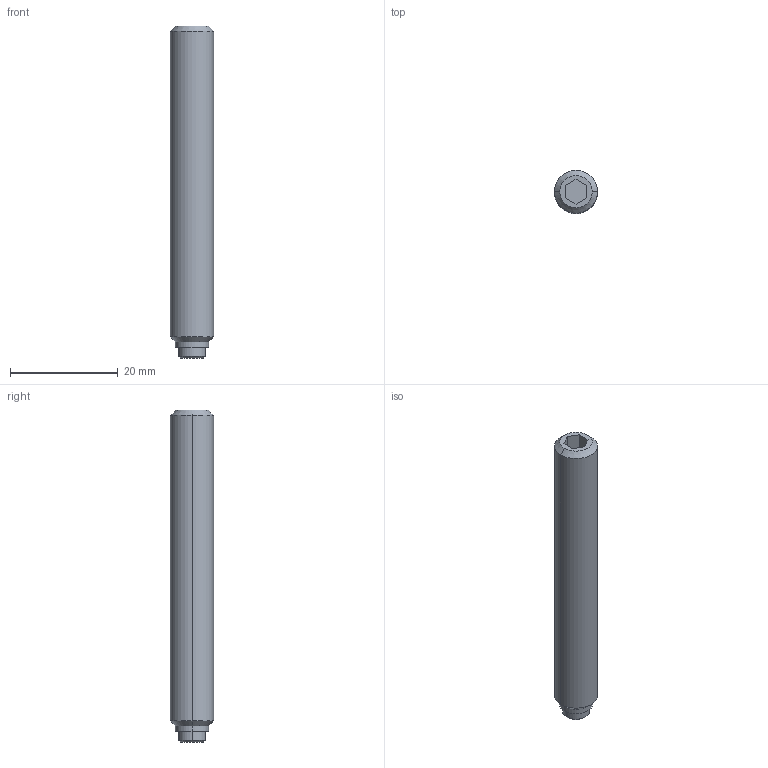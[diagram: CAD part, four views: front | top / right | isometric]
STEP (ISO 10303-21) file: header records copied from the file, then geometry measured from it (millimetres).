
FILE_DESCRIPTION (( 'STEP AP203' ), '1' );
FILE_NAME ('hssp08x61_6.STEP', '2021-10-26T01:24:33', ( '' ), ( '' ), 'SwSTEP 2.0', 'SolidWorks 2020', '' );
FILE_SCHEMA (( 'CONFIG_CONTROL_DESIGN' ));
Length unit declared in the file: millimetre
Products named in the file (1): hssp08x61_6
Bounding box: 8 x 8 x 61.6 mm (x, y, z)
Volume: 2924.1 mm3; surface area: 1660.3 mm2
Topology: 1 solids, 1 shells, 22 faces, 46 edges, 28 vertices
Faces by surface type: plane 10, cone 6, cylinder 6
Entity records: 659 total; most frequent: DIRECTION 108, CARTESIAN_POINT 97, ORIENTED_EDGE 92, EDGE_CURVE 46, AXIS2_PLACEMENT_3D 39, VECTOR 30, LINE 30, VERTEX_POINT 28
